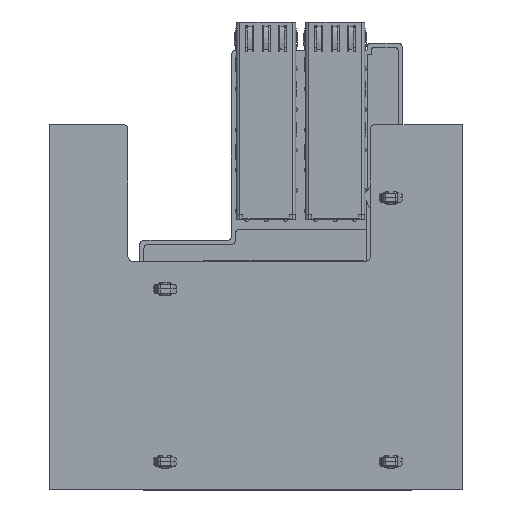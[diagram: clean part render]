
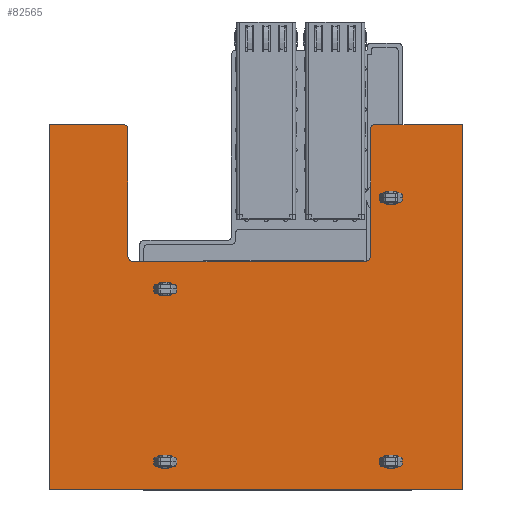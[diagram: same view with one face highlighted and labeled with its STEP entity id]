
A CAD part, front view. The second image highlights one B-rep face of the part: STEP entity #82565.
In plain terms, the highlighted planar face has unit normal (0, -1, 0).
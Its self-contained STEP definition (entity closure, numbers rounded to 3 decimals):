
#81770=DIRECTION('',(-1.,0.,0.));
#81771=VECTOR('',#81770,1.6);
#81772=CARTESIAN_POINT('',(100.2,-2.16,-465.9));
#81773=LINE('',#81772,#81771);
#81777=CARTESIAN_POINT('',(98.6,-2.16,-467.5));
#81778=DIRECTION('',(0.,-1.,0.));
#81779=DIRECTION('',(0.,0.,1.));
#81780=AXIS2_PLACEMENT_3D('',#81777,#81778,#81779);
#81785=DIRECTION('',(1.,0.,0.));
#81786=VECTOR('',#81785,1.6);
#81787=CARTESIAN_POINT('',(98.6,-2.16,-469.1));
#81788=LINE('',#81787,#81786);
#81792=CARTESIAN_POINT('',(100.2,-2.16,-467.5));
#81793=DIRECTION('',(0.,-1.,0.));
#81794=DIRECTION('',(0.,0.,-1.));
#81795=AXIS2_PLACEMENT_3D('',#81792,#81793,#81794);
#81800=DIRECTION('',(1.,0.,0.));
#81801=VECTOR('',#81800,1.6);
#81802=CARTESIAN_POINT('',(98.6,-2.16,-423.4));
#81803=LINE('',#81802,#81801);
#81807=CARTESIAN_POINT('',(98.6,-2.16,-425.));
#81808=DIRECTION('',(0.,1.,0.));
#81809=DIRECTION('',(0.,0.,-1.));
#81810=AXIS2_PLACEMENT_3D('',#81807,#81808,#81809);
#81815=DIRECTION('',(-1.,0.,0.));
#81816=VECTOR('',#81815,1.6);
#81817=CARTESIAN_POINT('',(100.2,-2.16,-426.6));
#81818=LINE('',#81817,#81816);
#81822=CARTESIAN_POINT('',(100.2,-2.16,-425.));
#81823=DIRECTION('',(0.,1.,0.));
#81824=DIRECTION('',(0.,0.,1.));
#81825=AXIS2_PLACEMENT_3D('',#81822,#81823,#81824);
#81830=CARTESIAN_POINT('',(44.6,-2.16,-425.));
#81831=DIRECTION('',(0.,1.,0.));
#81832=DIRECTION('',(0.,0.,1.));
#81833=AXIS2_PLACEMENT_3D('',#81830,#81831,#81832);
#81838=DIRECTION('',(1.,0.,0.));
#81839=VECTOR('',#81838,1.6);
#81840=CARTESIAN_POINT('',(43.,-2.16,-423.4));
#81841=LINE('',#81840,#81839);
#81845=CARTESIAN_POINT('',(43.,-2.16,-425.));
#81846=DIRECTION('',(0.,1.,0.));
#81847=DIRECTION('',(0.,0.,-1.));
#81848=AXIS2_PLACEMENT_3D('',#81845,#81846,#81847);
#81853=DIRECTION('',(-1.,0.,0.));
#81854=VECTOR('',#81853,1.6);
#81855=CARTESIAN_POINT('',(44.6,-2.16,-426.6));
#81856=LINE('',#81855,#81854);
#81860=CARTESIAN_POINT('',(44.6,-2.16,-490.));
#81861=DIRECTION('',(0.,1.,0.));
#81862=DIRECTION('',(0.,0.,1.));
#81863=AXIS2_PLACEMENT_3D('',#81860,#81861,#81862);
#81868=DIRECTION('',(1.,0.,0.));
#81869=VECTOR('',#81868,1.6);
#81870=CARTESIAN_POINT('',(43.,-2.16,-488.4));
#81871=LINE('',#81870,#81869);
#81875=CARTESIAN_POINT('',(43.,-2.16,-490.));
#81876=DIRECTION('',(0.,1.,0.));
#81877=DIRECTION('',(0.,0.,-1.));
#81878=AXIS2_PLACEMENT_3D('',#81875,#81876,#81877);
#81883=DIRECTION('',(-1.,0.,0.));
#81884=VECTOR('',#81883,1.6);
#81885=CARTESIAN_POINT('',(44.6,-2.16,-491.6));
#81886=LINE('',#81885,#81884);
#81890=CARTESIAN_POINT('',(47.77,-2.16,-507.));
#81891=DIRECTION('',(0.,-1.,0.));
#81892=DIRECTION('',(0.,0.,-1.));
#81893=AXIS2_PLACEMENT_3D('',#81890,#81891,#81892);
#81898=DIRECTION('',(1.,0.,0.));
#81899=VECTOR('',#81898,18.25);
#81900=CARTESIAN_POINT('',(109.62,-2.16,-508.));
#81901=LINE('',#81900,#81899);
#81905=CARTESIAN_POINT('',(109.62,-2.16,-507.));
#81906=DIRECTION('',(0.,-1.,0.));
#81907=DIRECTION('',(-1.,0.,0.));
#81908=AXIS2_PLACEMENT_3D('',#81905,#81906,#81907);
#81913=DIRECTION('',(0.,0.,1.));
#81914=VECTOR('',#81913,31.27);
#81915=CARTESIAN_POINT('',(108.62,-2.16,-507.));
#81916=LINE('',#81915,#81914);
#82196=DIRECTION('',(0.,0.,1.));
#82197=VECTOR('',#82196,31.27);
#82198=CARTESIAN_POINT('',(48.77,-2.16,-507.));
#82199=LINE('',#82198,#82197);
#82203=CARTESIAN_POINT('',(50.27,-2.16,-475.73));
#82204=DIRECTION('',(0.,1.,0.));
#82205=DIRECTION('',(-1.,0.,0.));
#82206=AXIS2_PLACEMENT_3D('',#82203,#82204,#82205);
#82240=DIRECTION('',(1.,0.,0.));
#82241=VECTOR('',#82240,56.85);
#82242=CARTESIAN_POINT('',(50.27,-2.16,-474.23));
#82243=LINE('',#82242,#82241);
#82247=CARTESIAN_POINT('',(107.12,-2.16,-475.73));
#82248=DIRECTION('',(0.,1.,0.));
#82249=DIRECTION('',(0.,0.,1.));
#82250=AXIS2_PLACEMENT_3D('',#82247,#82248,#82249);
#82312=DIRECTION('',(0.,0.,-1.));
#82313=VECTOR('',#82312,90.);
#82314=CARTESIAN_POINT('',(127.87,-2.16,-418.));
#82315=LINE('',#82314,#82313);
#82319=DIRECTION('',(1.,0.,0.));
#82320=VECTOR('',#82319,101.72);
#82321=CARTESIAN_POINT('',(26.15,-2.16,-418.));
#82322=LINE('',#82321,#82320);
#82340=DIRECTION('',(0.,0.,1.));
#82341=VECTOR('',#82340,90.);
#82342=CARTESIAN_POINT('',(26.15,-2.16,-508.));
#82343=LINE('',#82342,#82341);
#82361=DIRECTION('',(1.,0.,0.));
#82362=VECTOR('',#82361,21.62);
#82363=CARTESIAN_POINT('',(26.15,-2.16,-508.));
#82364=LINE('',#82363,#82362);
#82382=CARTESIAN_POINT('',(26.15,-2.16,-418.));
#82383=CARTESIAN_POINT('',(127.87,-2.16,-418.));
#82384=VERTEX_POINT('',#82382);
#82385=VERTEX_POINT('',#82383);
#82386=CARTESIAN_POINT('',(26.15,-2.16,-508.));
#82387=VERTEX_POINT('',#82386);
#82388=CARTESIAN_POINT('',(43.,-2.16,-423.4));
#82389=CARTESIAN_POINT('',(44.6,-2.16,-423.4));
#82390=VERTEX_POINT('',#82388);
#82391=VERTEX_POINT('',#82389);
#82392=CARTESIAN_POINT('',(43.,-2.16,-488.4));
#82393=CARTESIAN_POINT('',(44.6,-2.16,-488.4));
#82394=VERTEX_POINT('',#82392);
#82395=VERTEX_POINT('',#82393);
#82402=CARTESIAN_POINT('',(43.,-2.16,-426.6));
#82404=VERTEX_POINT('',#82402);
#82406=CARTESIAN_POINT('',(44.6,-2.16,-426.6));
#82407=VERTEX_POINT('',#82406);
#82412=CARTESIAN_POINT('',(43.,-2.16,-491.6));
#82414=VERTEX_POINT('',#82412);
#82418=CARTESIAN_POINT('',(44.6,-2.16,-491.6));
#82419=VERTEX_POINT('',#82418);
#82420=CARTESIAN_POINT('',(127.87,-2.16,-508.));
#82421=VERTEX_POINT('',#82420);
#82430=CARTESIAN_POINT('',(47.77,-2.16,-508.));
#82431=VERTEX_POINT('',#82430);
#82436=CARTESIAN_POINT('',(48.77,-2.16,-507.));
#82437=VERTEX_POINT('',#82436);
#82442=CARTESIAN_POINT('',(108.62,-2.16,-507.));
#82443=VERTEX_POINT('',#82442);
#82444=CARTESIAN_POINT('',(109.62,-2.16,-508.));
#82445=VERTEX_POINT('',#82444);
#82446=CARTESIAN_POINT('',(107.12,-2.16,-474.23));
#82448=VERTEX_POINT('',#82446);
#82450=CARTESIAN_POINT('',(108.62,-2.16,-475.73));
#82452=VERTEX_POINT('',#82450);
#82454=CARTESIAN_POINT('',(48.77,-2.16,-475.73));
#82456=VERTEX_POINT('',#82454);
#82458=CARTESIAN_POINT('',(50.27,-2.16,-474.23));
#82460=VERTEX_POINT('',#82458);
#82470=CARTESIAN_POINT('',(98.6,-2.16,-423.4));
#82471=CARTESIAN_POINT('',(100.2,-2.16,-423.4));
#82472=VERTEX_POINT('',#82470);
#82473=VERTEX_POINT('',#82471);
#82474=CARTESIAN_POINT('',(98.6,-2.16,-426.6));
#82475=VERTEX_POINT('',#82474);
#82476=CARTESIAN_POINT('',(100.2,-2.16,-426.6));
#82477=VERTEX_POINT('',#82476);
#82486=CARTESIAN_POINT('',(100.2,-2.16,-465.9));
#82487=CARTESIAN_POINT('',(98.6,-2.16,-465.9));
#82488=VERTEX_POINT('',#82486);
#82489=VERTEX_POINT('',#82487);
#82490=CARTESIAN_POINT('',(98.6,-2.16,-469.1));
#82491=VERTEX_POINT('',#82490);
#82492=CARTESIAN_POINT('',(100.2,-2.16,-469.1));
#82493=VERTEX_POINT('',#82492);
#82494=CARTESIAN_POINT('',(0.,-2.16,0.));
#82495=DIRECTION('',(0.,1.,0.));
#82496=DIRECTION('',(0.,0.,1.));
#82497=AXIS2_PLACEMENT_3D('',#82494,#82495,#82496);
#82498=PLANE('',#82497);
#82500=ORIENTED_EDGE('',*,*,#82499,.F.);
#82502=ORIENTED_EDGE('',*,*,#82501,.F.);
#82504=ORIENTED_EDGE('',*,*,#82503,.F.);
#82506=ORIENTED_EDGE('',*,*,#82505,.F.);
#82508=ORIENTED_EDGE('',*,*,#82507,.F.);
#82510=ORIENTED_EDGE('',*,*,#82509,.T.);
#82512=ORIENTED_EDGE('',*,*,#82511,.T.);
#82514=ORIENTED_EDGE('',*,*,#82513,.T.);
#82516=ORIENTED_EDGE('',*,*,#82515,.F.);
#82518=ORIENTED_EDGE('',*,*,#82517,.F.);
#82520=ORIENTED_EDGE('',*,*,#82519,.T.);
#82522=ORIENTED_EDGE('',*,*,#82521,.F.);
#82523=EDGE_LOOP('',(#82500,#82502,#82504,#82506,#82508,#82510,#82512,#82514,
#82516,#82518,#82520,#82522));
#82524=FACE_OUTER_BOUND('',#82523,.F.);
#82526=ORIENTED_EDGE('',*,*,#82525,.F.);
#82528=ORIENTED_EDGE('',*,*,#82527,.F.);
#82530=ORIENTED_EDGE('',*,*,#82529,.F.);
#82532=ORIENTED_EDGE('',*,*,#82531,.F.);
#82533=EDGE_LOOP('',(#82526,#82528,#82530,#82532));
#82534=FACE_BOUND('',#82533,.F.);
#82536=ORIENTED_EDGE('',*,*,#82535,.F.);
#82538=ORIENTED_EDGE('',*,*,#82537,.F.);
#82540=ORIENTED_EDGE('',*,*,#82539,.F.);
#82542=ORIENTED_EDGE('',*,*,#82541,.F.);
#82543=EDGE_LOOP('',(#82536,#82538,#82540,#82542));
#82544=FACE_BOUND('',#82543,.F.);
#82546=ORIENTED_EDGE('',*,*,#82545,.F.);
#82548=ORIENTED_EDGE('',*,*,#82547,.F.);
#82550=ORIENTED_EDGE('',*,*,#82549,.F.);
#82552=ORIENTED_EDGE('',*,*,#82551,.F.);
#82553=EDGE_LOOP('',(#82546,#82548,#82550,#82552));
#82554=FACE_BOUND('',#82553,.F.);
#82556=ORIENTED_EDGE('',*,*,#82555,.T.);
#82558=ORIENTED_EDGE('',*,*,#82557,.T.);
#82560=ORIENTED_EDGE('',*,*,#82559,.T.);
#82562=ORIENTED_EDGE('',*,*,#82561,.T.);
#82563=EDGE_LOOP('',(#82556,#82558,#82560,#82562));
#82564=FACE_BOUND('',#82563,.F.);
#81781=CIRCLE('',#81780,1.6);
#81796=CIRCLE('',#81795,1.6);
#81811=CIRCLE('',#81810,1.6);
#81826=CIRCLE('',#81825,1.6);
#81834=CIRCLE('',#81833,1.6);
#81849=CIRCLE('',#81848,1.6);
#81864=CIRCLE('',#81863,1.6);
#81879=CIRCLE('',#81878,1.6);
#81894=CIRCLE('',#81893,1.);
#81909=CIRCLE('',#81908,1.);
#82207=CIRCLE('',#82206,1.5);
#82251=CIRCLE('',#82250,1.5);
#82499=EDGE_CURVE('',#82460,#82448,#82243,.T.);
#82501=EDGE_CURVE('',#82456,#82460,#82207,.T.);
#82503=EDGE_CURVE('',#82437,#82456,#82199,.T.);
#82505=EDGE_CURVE('',#82431,#82437,#81894,.T.);
#82507=EDGE_CURVE('',#82387,#82431,#82364,.T.);
#82509=EDGE_CURVE('',#82387,#82384,#82343,.T.);
#82511=EDGE_CURVE('',#82384,#82385,#82322,.T.);
#82513=EDGE_CURVE('',#82385,#82421,#82315,.T.);
#82515=EDGE_CURVE('',#82445,#82421,#81901,.T.);
#82517=EDGE_CURVE('',#82443,#82445,#81909,.T.);
#82519=EDGE_CURVE('',#82443,#82452,#81916,.T.);
#82521=EDGE_CURVE('',#82448,#82452,#82251,.T.);
#82525=EDGE_CURVE('',#82472,#82473,#81803,.T.);
#82527=EDGE_CURVE('',#82475,#82472,#81811,.T.);
#82529=EDGE_CURVE('',#82477,#82475,#81818,.T.);
#82531=EDGE_CURVE('',#82473,#82477,#81826,.T.);
#82535=EDGE_CURVE('',#82391,#82407,#81834,.T.);
#82537=EDGE_CURVE('',#82390,#82391,#81841,.T.);
#82539=EDGE_CURVE('',#82404,#82390,#81849,.T.);
#82541=EDGE_CURVE('',#82407,#82404,#81856,.T.);
#82545=EDGE_CURVE('',#82395,#82419,#81864,.T.);
#82547=EDGE_CURVE('',#82394,#82395,#81871,.T.);
#82549=EDGE_CURVE('',#82414,#82394,#81879,.T.);
#82551=EDGE_CURVE('',#82419,#82414,#81886,.T.);
#82555=EDGE_CURVE('',#82488,#82489,#81773,.T.);
#82557=EDGE_CURVE('',#82489,#82491,#81781,.T.);
#82559=EDGE_CURVE('',#82491,#82493,#81788,.T.);
#82561=EDGE_CURVE('',#82493,#82488,#81796,.T.);
#82565=ADVANCED_FACE('',(#82524,#82534,#82544,#82554,#82564),#82498,.F.);
